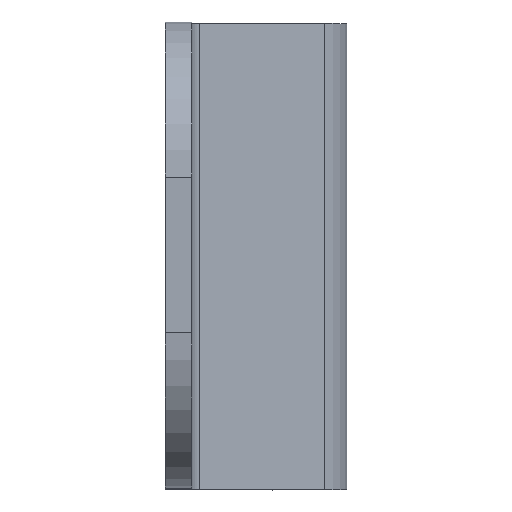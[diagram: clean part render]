
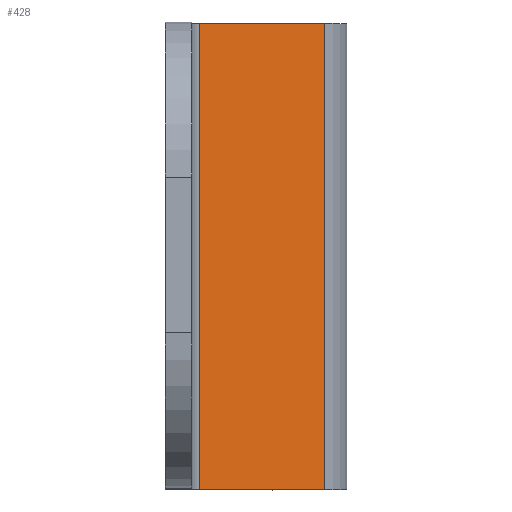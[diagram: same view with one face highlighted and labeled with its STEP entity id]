
A CAD part, top view. The second image highlights one B-rep face of the part: STEP entity #428.
In plain terms, the highlighted planar face has unit normal (0.707, 0, 0.707).
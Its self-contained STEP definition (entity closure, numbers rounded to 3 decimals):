
#30=PLANE('',#474);
#56=FACE_OUTER_BOUND('',#85,.T.);
#85=EDGE_LOOP('',(#368,#369,#370,#371));
#115=LINE('',#685,#155);
#123=LINE('',#704,#163);
#125=LINE('',#710,#165);
#129=LINE('',#722,#169);
#155=VECTOR('',#550,4.5);
#163=VECTOR('',#570,1.707);
#165=VECTOR('',#578,4.5);
#169=VECTOR('',#594,1.707);
#215=VERTEX_POINT('',#682);
#216=VERTEX_POINT('',#684);
#221=VERTEX_POINT('',#703);
#222=VERTEX_POINT('',#709);
#258=EDGE_CURVE('',#215,#216,#115,.T.);
#268=EDGE_CURVE('',#221,#216,#123,.T.);
#271=EDGE_CURVE('',#222,#221,#125,.T.);
#278=EDGE_CURVE('',#222,#215,#129,.T.);
#368=ORIENTED_EDGE('',*,*,#258,.F.);
#369=ORIENTED_EDGE('',*,*,#278,.F.);
#370=ORIENTED_EDGE('',*,*,#271,.T.);
#371=ORIENTED_EDGE('',*,*,#268,.T.);
#428=ADVANCED_FACE('',(#56),#30,.T.);
#474=AXIS2_PLACEMENT_3D('',#723,#595,#596);
#550=DIRECTION('',(0.,-1.,0.));
#570=DIRECTION('',(0.707,0.,-0.707));
#578=DIRECTION('',(0.,-1.,0.));
#594=DIRECTION('',(0.707,0.,-0.707));
#595=DIRECTION('center_axis',(0.707,0.,0.707));
#596=DIRECTION('ref_axis',(0.707,0.,-0.707));
#682=CARTESIAN_POINT('',(1.537,2.25,-1.378));
#684=CARTESIAN_POINT('',(1.537,-2.25,-1.378));
#685=CARTESIAN_POINT('',(1.537,0.,-1.378));
#703=CARTESIAN_POINT('',(0.33,-2.25,-0.17));
#704=CARTESIAN_POINT('',(-5.737,-2.25,5.896));
#709=CARTESIAN_POINT('',(0.33,2.25,-0.17));
#710=CARTESIAN_POINT('',(0.33,0.,-0.17));
#722=CARTESIAN_POINT('',(-5.737,2.25,5.896));
#723=CARTESIAN_POINT('Origin',(-1.332,0.,1.491));
